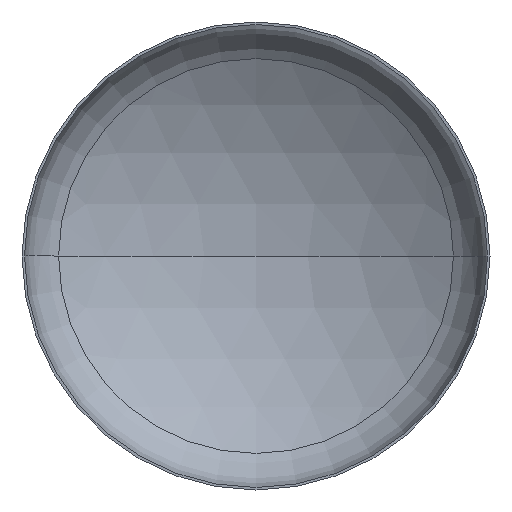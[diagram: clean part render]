
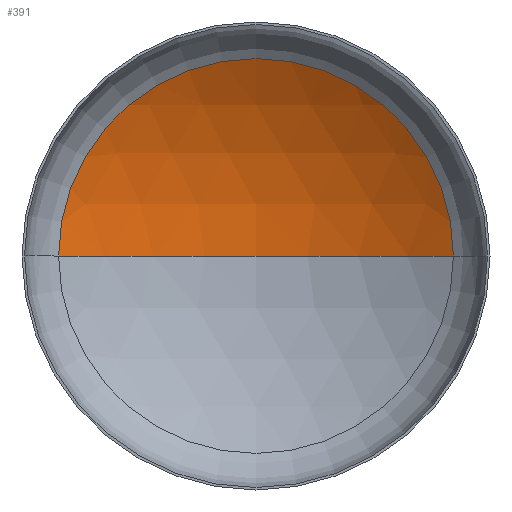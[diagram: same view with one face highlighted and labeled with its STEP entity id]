
A CAD part, front view. The second image highlights one B-rep face of the part: STEP entity #391.
In plain terms, the highlighted spherical face has radius 4800 mm.
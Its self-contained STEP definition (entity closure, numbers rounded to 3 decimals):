
#3 = AXIS2_PLACEMENT_3D ( 'NONE', #206, #205, #203 ) ;
#12 = CARTESIAN_POINT ( 'NONE',  ( 0., 1607.315, 0. ) ) ;
#34 = DIRECTION ( 'NONE',  ( -1., 0., 0. ) ) ;
#35 = FACE_OUTER_BOUND ( 'NONE', #251, .T. ) ;
#54 = ORIENTED_EDGE ( 'NONE', *, *, #121, .F. ) ;
#58 = AXIS2_PLACEMENT_3D ( 'NONE', #385, #386, #393 ) ;
#62 = ORIENTED_EDGE ( 'NONE', *, *, #209, .T. ) ;
#76 = AXIS2_PLACEMENT_3D ( 'NONE', #292, #174, #34 ) ;
#121 = EDGE_CURVE ( 'NONE', #168, #216, #245, .T. ) ;
#158 = ORIENTED_EDGE ( 'NONE', *, *, #184, .T. ) ;
#168 = VERTEX_POINT ( 'NONE', #12 ) ;
#174 = DIRECTION ( 'NONE',  ( 0., 0., -1. ) ) ;
#181 = DIRECTION ( 'NONE',  ( 0., 0., 1. ) ) ;
#184 = EDGE_CURVE ( 'NONE', #168, #185, #289, .T. ) ;
#185 = VERTEX_POINT ( 'NONE', #406 ) ;
#186 = CARTESIAN_POINT ( 'NONE',  ( 0., -3192.685, 0. ) ) ;
#203 = DIRECTION ( 'NONE',  ( -1., 0., 0. ) ) ;
#205 = DIRECTION ( 'NONE',  ( 0., 0., -1. ) ) ;
#206 = CARTESIAN_POINT ( 'NONE',  ( 0., -3192.685, 0. ) ) ;
#209 = EDGE_CURVE ( 'NONE', #185, #216, #213, .T. ) ;
#213 = CIRCLE ( 'NONE', #58, 2530.684 ) ;
#216 = VERTEX_POINT ( 'NONE', #403 ) ;
#239 = SPHERICAL_SURFACE ( 'NONE', #76, 4800. ) ;
#245 = CIRCLE ( 'NONE', #370, 4800. ) ;
#251 = EDGE_LOOP ( 'NONE', ( #54, #158, #62 ) ) ;
#289 = CIRCLE ( 'NONE', #3, 4800. ) ;
#292 = CARTESIAN_POINT ( 'NONE',  ( 0., -3192.685, 0. ) ) ;
#370 = AXIS2_PLACEMENT_3D ( 'NONE', #186, #181, #375 ) ;
#375 = DIRECTION ( 'NONE',  ( 1., 0., 0. ) ) ;
#385 = CARTESIAN_POINT ( 'NONE',  ( 0., 885.996, 0. ) ) ;
#386 = DIRECTION ( 'NONE',  ( 0., -1., 0. ) ) ;
#391 = ADVANCED_FACE ( 'NONE', ( #35 ), #239, .F. ) ;
#393 = DIRECTION ( 'NONE',  ( 1., 0., 0. ) ) ;
#403 = CARTESIAN_POINT ( 'NONE',  ( -2530.684, 885.996, 0. ) ) ;
#406 = CARTESIAN_POINT ( 'NONE',  ( 2530.684, 885.996, 0. ) ) ;
